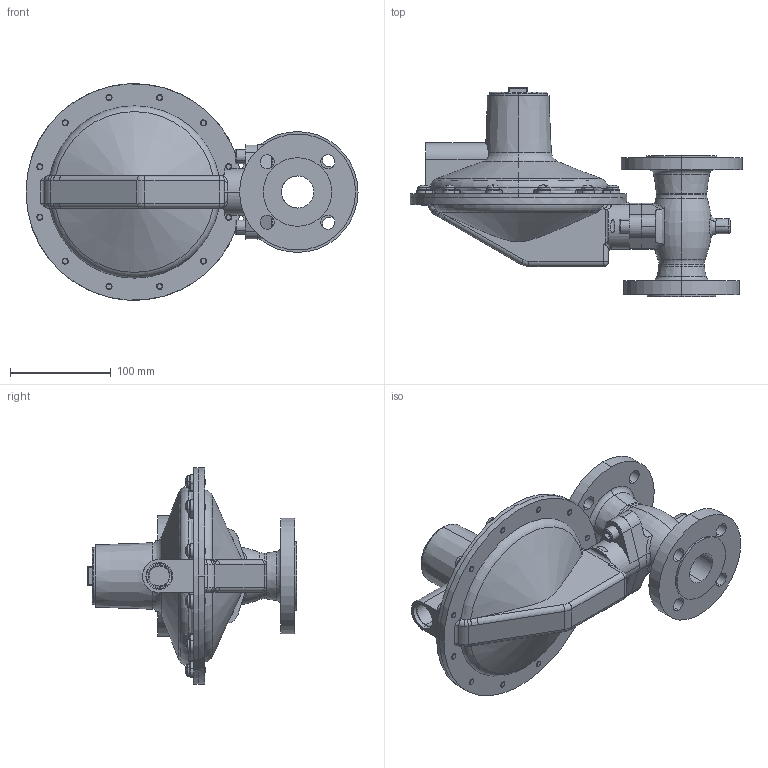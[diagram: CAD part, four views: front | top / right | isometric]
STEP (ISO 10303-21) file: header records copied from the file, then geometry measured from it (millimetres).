
FILE_DESCRIPTION (( 'STEP AP214' ), '1' );
FILE_NAME ('Alz-6.STEP', '2016-02-04T19:40:49', ( '' ), ( '' ), 'SwSTEP 2.0', 'SolidWorks 2014', '' );
FILE_SCHEMA (( 'AUTOMOTIVE_DESIGN' ));
Length unit declared in the file: millimetre
Products named in the file (7): Alz-6; Imbus M10x25; Sroub M6x15; 110 Teleso regulatoru; 112 Teleso ventilu; 121 Deckelverschlus ND-Reg; 197 Deckel ND Regler
Assembly tree (18 placements, depth 2):
  Alz-6
    197 Deckel ND Regler
    121 Deckelverschlus ND-Reg
    112 Teleso ventilu
    110 Teleso regulatoru
    Sroub M6x15  x12
    Imbus M10x25  x2
Bounding box: 329.5 x 208.08 x 215 mm (x, y, z)
Volume: 1679366.4 mm3; surface area: 340457.1 mm2
Topology: 18 solids, 18 shells, 769 faces, 1936 edges, 1233 vertices
Faces by surface type: plane 298, cylinder 287, torus 86, cone 47, sphere 30, bspline 21
Entity records: 18017 total; most frequent: CARTESIAN_POINT 5279, DIRECTION 2788, ORIENTED_EDGE 2508, EDGE_CURVE 1254, AXIS2_PLACEMENT_3D 1168, VERTEX_POINT 791, CIRCLE 670, EDGE_LOOP 601
